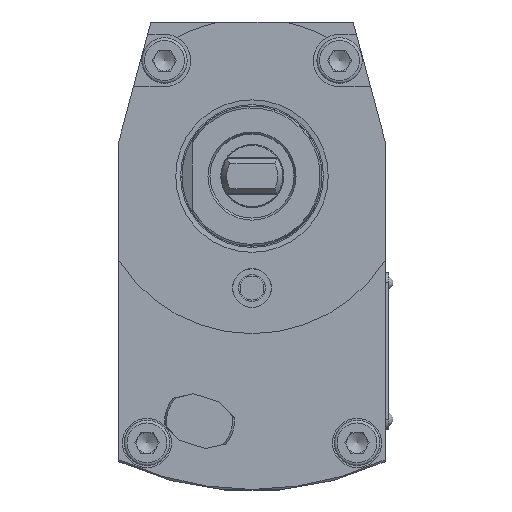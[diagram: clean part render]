
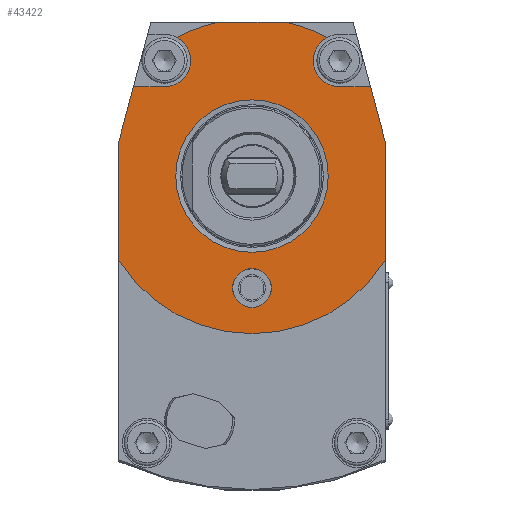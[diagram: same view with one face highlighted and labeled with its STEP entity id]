
A CAD part, left-side view. The second image highlights one B-rep face of the part: STEP entity #43422.
In plain terms, the highlighted planar face has unit normal (-1, 0, 0).
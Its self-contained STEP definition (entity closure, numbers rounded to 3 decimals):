
#19375=CIRCLE('',#41931,7.5);
#19376=CIRCLE('',#41932,45.);
#19377=CIRCLE('',#41933,7.5);
#19378=CIRCLE('',#41934,45.);
#19379=CIRCLE('',#41935,45.);
#19380=CIRCLE('',#41936,5.55);
#19381=CIRCLE('',#41937,21.765);
#19833=ORIENTED_EDGE('',*,*,#25856,.F.);
#19834=ORIENTED_EDGE('',*,*,#25857,.F.);
#19835=ORIENTED_EDGE('',*,*,#25858,.F.);
#19836=ORIENTED_EDGE('',*,*,#25859,.F.);
#19837=ORIENTED_EDGE('',*,*,#25860,.T.);
#19838=ORIENTED_EDGE('',*,*,#25840,.F.);
#19839=ORIENTED_EDGE('',*,*,#25861,.F.);
#19840=ORIENTED_EDGE('',*,*,#25862,.F.);
#19841=ORIENTED_EDGE('',*,*,#25863,.F.);
#19842=ORIENTED_EDGE('',*,*,#25864,.T.);
#19843=ORIENTED_EDGE('',*,*,#25865,.F.);
#19844=ORIENTED_EDGE('',*,*,#25866,.T.);
#19845=ORIENTED_EDGE('',*,*,#25867,.T.);
#19846=ORIENTED_EDGE('',*,*,#25868,.F.);
#22984=VECTOR('',#29183,1.);
#22995=VECTOR('',#29208,1.);
#22996=VECTOR('',#29209,1.);
#22997=VECTOR('',#29210,1.);
#22998=VECTOR('',#29213,1.);
#22999=VECTOR('',#29214,1.);
#23000=VECTOR('',#29219,1.);
#23856=LINE('',#32287,#22984);
#23867=LINE('',#32321,#22995);
#23868=LINE('',#32323,#22996);
#23869=LINE('',#32325,#22997);
#23870=LINE('',#32328,#22998);
#23871=LINE('',#32330,#22999);
#23872=LINE('',#32336,#23000);
#24734=VERTEX_POINT('',#32285);
#24735=VERTEX_POINT('',#32286);
#24749=VERTEX_POINT('',#32317);
#24750=VERTEX_POINT('',#32318);
#24751=VERTEX_POINT('',#32320);
#24752=VERTEX_POINT('',#32322);
#24753=VERTEX_POINT('',#32324);
#24754=VERTEX_POINT('',#32327);
#24755=VERTEX_POINT('',#32329);
#24756=VERTEX_POINT('',#32331);
#24757=VERTEX_POINT('',#32333);
#24758=VERTEX_POINT('',#32335);
#24759=VERTEX_POINT('',#32338);
#24760=VERTEX_POINT('',#32340);
#25840=EDGE_CURVE('',#24734,#24735,#23856,.T.);
#25856=EDGE_CURVE('',#24749,#24750,#19375,.T.);
#25857=EDGE_CURVE('',#24751,#24749,#23867,.T.);
#25858=EDGE_CURVE('',#24752,#24751,#23868,.T.);
#25859=EDGE_CURVE('',#24753,#24752,#23869,.T.);
#25860=EDGE_CURVE('',#24753,#24735,#19376,.T.);
#25861=EDGE_CURVE('',#24754,#24734,#23870,.T.);
#25862=EDGE_CURVE('',#24755,#24754,#23871,.T.);
#25863=EDGE_CURVE('',#24756,#24755,#19377,.T.);
#25864=EDGE_CURVE('',#24756,#24757,#19378,.T.);
#25865=EDGE_CURVE('',#24758,#24757,#23872,.T.);
#25866=EDGE_CURVE('',#24758,#24750,#19379,.T.);
#25867=EDGE_CURVE('',#24759,#24759,#19380,.T.);
#25868=EDGE_CURVE('',#24760,#24760,#19381,.T.);
#27415=EDGE_LOOP('',(#19833,#19834,#19835,#19836,#19837,#19838,#19839,#19840,
#19841,#19842,#19843,#19844));
#27416=EDGE_LOOP('',(#19845));
#27417=EDGE_LOOP('',(#19846));
#28274=FACE_BOUND('',#27415,.T.);
#28275=FACE_BOUND('',#27416,.T.);
#28276=FACE_BOUND('',#27417,.T.);
#29183=DIRECTION('',(0.,0.,-34.104));
#29204=DIRECTION('',(-1.,0.,0.));
#29205=DIRECTION('',(0.,1.,0.));
#29206=DIRECTION('',(-1.,0.,0.));
#29207=DIRECTION('',(0.,0.,-7.5));
#29208=DIRECTION('',(0.,-8.847,0.));
#29209=DIRECTION('',(0.,-4.153,15.5));
#29210=DIRECTION('',(0.,0.,34.104));
#29211=DIRECTION('',(-1.,0.,0.));
#29212=DIRECTION('',(0.,38.,-24.104));
#29213=DIRECTION('',(0.,-4.153,-15.5));
#29214=DIRECTION('',(0.,-8.847,0.));
#29215=DIRECTION('',(-1.,0.,0.));
#29216=DIRECTION('',(0.,3.594,6.583));
#29217=DIRECTION('',(-1.,0.,0.));
#29218=DIRECTION('',(0.,-21.406,39.583));
#29219=DIRECTION('',(0.,-18.868,0.));
#29220=DIRECTION('',(-1.,0.,0.));
#29221=DIRECTION('',(0.,9.434,44.));
#29222=DIRECTION('',(1.,0.,0.));
#29223=DIRECTION('',(0.,5.55,0.));
#29224=DIRECTION('',(-1.,0.,0.));
#29225=DIRECTION('',(0.,-21.765,0.));
#32285=CARTESIAN_POINT('',(0.,-38.,10.));
#32286=CARTESIAN_POINT('',(0.,-38.,-24.104));
#32287=CARTESIAN_POINT('',(0.,-38.,10.));
#32316=CARTESIAN_POINT('',(0.,25.,25.5));
#32317=CARTESIAN_POINT('',(0.,25.,25.5));
#32318=CARTESIAN_POINT('',(0.,21.406,39.583));
#32319=CARTESIAN_POINT('',(0.,25.,33.));
#32320=CARTESIAN_POINT('',(0.,33.847,25.5));
#32321=CARTESIAN_POINT('',(0.,33.847,25.5));
#32322=CARTESIAN_POINT('',(0.,38.,10.));
#32323=CARTESIAN_POINT('',(0.,38.,10.));
#32324=CARTESIAN_POINT('',(0.,38.,-24.104));
#32325=CARTESIAN_POINT('',(0.,38.,-24.104));
#32326=CARTESIAN_POINT('',(0.,0.,0.));
#32327=CARTESIAN_POINT('',(0.,-33.847,25.5));
#32328=CARTESIAN_POINT('',(0.,-33.847,25.5));
#32329=CARTESIAN_POINT('',(0.,-25.,25.5));
#32330=CARTESIAN_POINT('',(0.,-25.,25.5));
#32331=CARTESIAN_POINT('',(0.,-21.406,39.583));
#32332=CARTESIAN_POINT('',(0.,-25.,33.));
#32333=CARTESIAN_POINT('',(0.,-9.434,44.));
#32334=CARTESIAN_POINT('',(0.,0.,0.));
#32335=CARTESIAN_POINT('',(0.,9.434,44.));
#32336=CARTESIAN_POINT('',(0.,9.434,44.));
#32337=CARTESIAN_POINT('',(0.,0.,0.));
#32338=CARTESIAN_POINT('',(0.,5.55,-32.));
#32339=CARTESIAN_POINT('',(0.,0.,-32.));
#32340=CARTESIAN_POINT('',(0.,-21.765,0.));
#32341=CARTESIAN_POINT('',(0.,0.,0.));
#41930=AXIS2_PLACEMENT_3D('',#32316,#29204,#29205);
#41931=AXIS2_PLACEMENT_3D('',#32319,#29206,#29207);
#41932=AXIS2_PLACEMENT_3D('',#32326,#29211,#29212);
#41933=AXIS2_PLACEMENT_3D('',#32332,#29215,#29216);
#41934=AXIS2_PLACEMENT_3D('',#32334,#29217,#29218);
#41935=AXIS2_PLACEMENT_3D('',#32337,#29220,#29221);
#41936=AXIS2_PLACEMENT_3D('',#32339,#29222,#29223);
#41937=AXIS2_PLACEMENT_3D('',#32341,#29224,#29225);
#43026=PLANE('',#41930);
#43422=ADVANCED_FACE('',(#28274,#28275,#28276),#43026,.T.);
